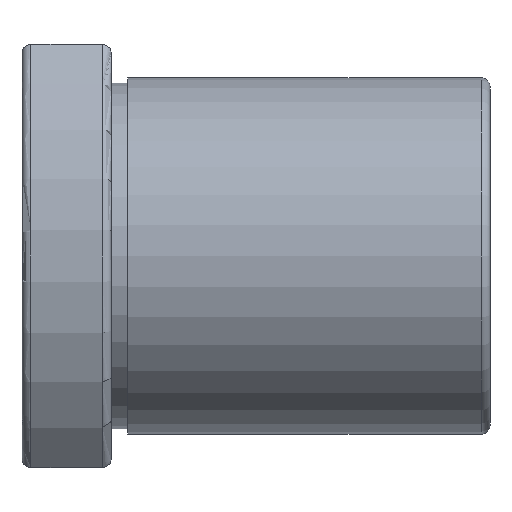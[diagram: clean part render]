
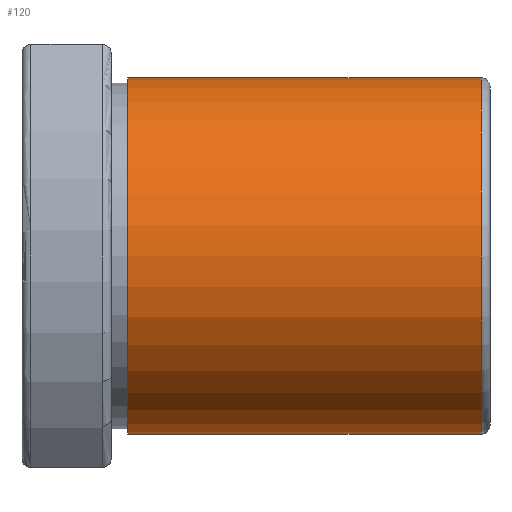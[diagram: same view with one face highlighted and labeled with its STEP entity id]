
A CAD part, front view. The second image highlights one B-rep face of the part: STEP entity #120.
In plain terms, the highlighted cylindrical face has radius 16 mm (diameter 32 mm), a full revolution.
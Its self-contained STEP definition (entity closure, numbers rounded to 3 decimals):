
#120 = ADVANCED_FACE( '', ( #258, #259 ), #260, .T. );
#258 = FACE_OUTER_BOUND( '', #401, .T. );
#259 = FACE_OUTER_BOUND( '', #402, .T. );
#260 = CYLINDRICAL_SURFACE( '', #403, 16. );
#401 = EDGE_LOOP( '', ( #645 ) );
#402 = EDGE_LOOP( '', ( #646 ) );
#403 = AXIS2_PLACEMENT_3D( '', #647, #648, #649 );
#645 = ORIENTED_EDGE( '', *, *, #799, .F. );
#646 = ORIENTED_EDGE( '', *, *, #781, .T. );
#647 = CARTESIAN_POINT( '', ( 24.9, 0., 0. ) );
#648 = DIRECTION( '', ( -1., 0., 0. ) );
#649 = DIRECTION( '', ( 0., 1., 0. ) );
#781 = EDGE_CURVE( '', #927, #927, #928, .F. );
#799 = EDGE_CURVE( '', #951, #951, #952, .F. );
#927 = VERTEX_POINT( '', #1159 );
#928 = CIRCLE( '', #1160, 16. );
#951 = VERTEX_POINT( '', #1185 );
#952 = CIRCLE( '', #1186, 16. );
#1159 = CARTESIAN_POINT( '', ( 41.2, 16., 0. ) );
#1160 = AXIS2_PLACEMENT_3D( '', #1303, #1304, #1305 );
#1185 = CARTESIAN_POINT( '', ( 9.5, 0., -16. ) );
#1186 = AXIS2_PLACEMENT_3D( '', #1329, #1330, #1331 );
#1303 = CARTESIAN_POINT( '', ( 41.2, 0., 0. ) );
#1304 = DIRECTION( '', ( 1., 0., 0. ) );
#1305 = DIRECTION( '', ( 0., 0., -1. ) );
#1329 = CARTESIAN_POINT( '', ( 9.5, 0., 0. ) );
#1330 = DIRECTION( '', ( 1., 0., 0. ) );
#1331 = DIRECTION( '', ( 0., 0., -1. ) );
